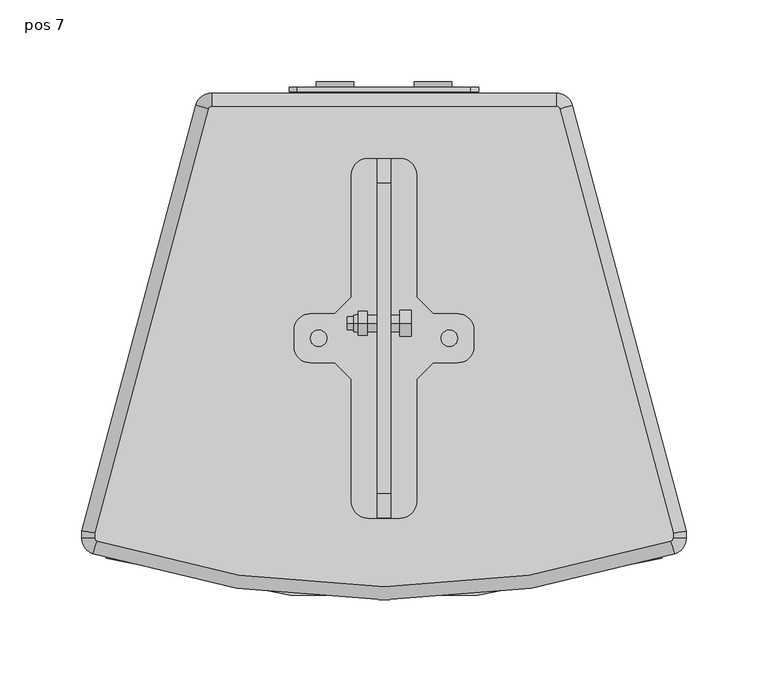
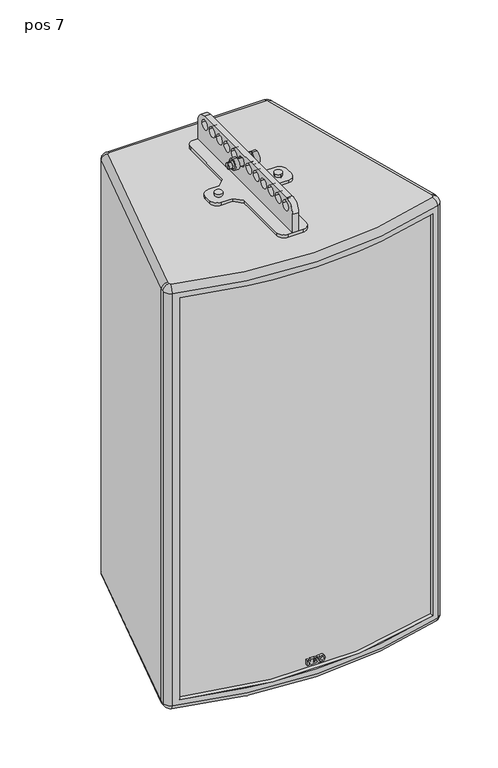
"""IFC4 building model written with IfcOpenShell, lengths in millimetres: proxy geometry, ePS12-WM380-BUMP-WVM : pos 7."""

from ifc_helpers import new_model, si_unit, point, frame, frame_2d, origin, place, context, project, spatial, polyline, circle_curve, ellipse_curve, trimmed, segment, composite_curve, outline, extrude, source, transform, mapped, element, save
from ifc_brep_helpers import plane_surface, cylinder_surface, revolved_surface, advanced_brep


def pos_7_54a07403(model_context):
    return source(origin(), model_context, "Body", "SolidModel", [
        extrude(outline(composite_curve([segment(trimmed(circle_curve(frame_2d((-40.0511607, -388.9923276)), 5.0), [point((-45.0511607, -388.9923276))], [point((-35.0511607, -388.9923276))], False, "CARTESIAN"), True, "CONTINUOUS"), segment(trimmed(circle_curve(frame_2d((-40.0511607, -388.9923276)), 5.0), [point((-35.0511607, -388.9923276))], [point((-45.0511607, -388.9923276))], False, "CARTESIAN"), True, "CONTINUOUS")], self_intersect=False)), frame((0.0, 0.0, -97.9639301), z_axis=(0.0, 0.0, 1.0), x_axis=(1.0, 0.0, 0.0)), (0.0, 0.0, 1.0), 4.0),
        extrude(outline(composite_curve([segment(trimmed(circle_curve(frame_2d((40.0511607, -388.9923276)), 5.0), [point((45.0511607, -388.9923276))], [point((35.0511607, -388.9923276))], False, "CARTESIAN"), True, "CONTINUOUS"), segment(trimmed(circle_curve(frame_2d((40.0511607, -388.9923276)), 5.0), [point((35.0511607, -388.9923276))], [point((45.0511607, -388.9923276))], False, "CARTESIAN"), True, "CONTINUOUS")], self_intersect=False)), frame((0.0, 0.0, -97.9639301), z_axis=(0.0, 0.0, 1.0), x_axis=(1.0, 0.0, 0.0)), (0.0, 0.0, 1.0), 4.0),
        extrude(outline(composite_curve([segment(trimmed(circle_curve(frame_2d((-293.9923276, -71.9639301)), 15.0), [point((-293.9923276, -56.9639301))], [point((-278.9923276, -71.9639301))], False, "CARTESIAN"), True, "CONTINUOUS"), segment(polyline([(-278.9923276, -71.9639301), (-278.9923276, -97.9639301), (-498.9923276, -97.9639301), (-498.9923276, -71.9639301)]), True, "CONTINUOUS"), segment(trimmed(circle_curve(frame_2d((-483.9923276, -71.9639301)), 15.0), [point((-498.9923276, -71.9639301))], [point((-483.9923276, -56.9639301))], False, "CARTESIAN"), True, "CONTINUOUS"), segment(polyline([(-483.9923276, -56.9639301), (-293.9923276, -56.9639301)]), True, "CONTINUOUS")], self_intersect=False), holes=[composite_curve([segment(trimmed(circle_curve(frame_2d((-397.0182505, -68.9639301)), 6.5), [point((-403.5182505, -68.9639301))], [point((-390.5182505, -68.9639301))], True, "CARTESIAN"), True, "CONTINUOUS"), segment(trimmed(circle_curve(frame_2d((-397.0182505, -68.9639301)), 6.5), [point((-390.5182505, -68.9639301))], [point((-403.5182505, -68.9639301))], True, "CARTESIAN"), True, "CONTINUOUS")], self_intersect=False), composite_curve([segment(trimmed(circle_curve(frame_2d((-414.0963755, -68.9639301)), 6.5), [point((-420.5963755, -68.9639301))], [point((-407.5963755, -68.9639301))], True, "CARTESIAN"), True, "CONTINUOUS"), segment(trimmed(circle_curve(frame_2d((-414.0963755, -68.9639301)), 6.5), [point((-407.5963755, -68.9639301))], [point((-420.5963755, -68.9639301))], True, "CARTESIAN"), True, "CONTINUOUS")], self_intersect=False), composite_curve([segment(trimmed(circle_curve(frame_2d((-431.1745005, -68.9639301)), 6.5), [point((-437.6745005, -68.9639301))], [point((-424.6745005, -68.9639301))], True, "CARTESIAN"), True, "CONTINUOUS"), segment(trimmed(circle_curve(frame_2d((-431.1745005, -68.9639301)), 6.5), [point((-424.6745005, -68.9639301))], [point((-437.6745005, -68.9639301))], True, "CARTESIAN"), True, "CONTINUOUS")], self_intersect=False), composite_curve([segment(trimmed(circle_curve(frame_2d((-448.2526255, -68.9639301)), 6.5), [point((-454.7526255, -68.9639301))], [point((-441.7526255, -68.9639301))], True, "CARTESIAN"), True, "CONTINUOUS"), segment(trimmed(circle_curve(frame_2d((-448.2526255, -68.9639301)), 6.5), [point((-441.7526255, -68.9639301))], [point((-454.7526255, -68.9639301))], True, "CARTESIAN"), True, "CONTINUOUS")], self_intersect=False), composite_curve([segment(trimmed(circle_curve(frame_2d((-465.3307505, -68.9639301)), 6.5), [point((-471.8307505, -68.9639301))], [point((-458.8307505, -68.9639301))], True, "CARTESIAN"), True, "CONTINUOUS"), segment(trimmed(circle_curve(frame_2d((-465.3307505, -68.9639301)), 6.5), [point((-458.8307505, -68.9639301))], [point((-471.8307505, -68.9639301))], True, "CARTESIAN"), True, "CONTINUOUS")], self_intersect=False), composite_curve([segment(trimmed(circle_curve(frame_2d((-482.4088755, -68.9639301)), 6.5), [point((-488.9088755, -68.9639301))], [point((-475.9088755, -68.9639301))], True, "CARTESIAN"), True, "CONTINUOUS"), segment(trimmed(circle_curve(frame_2d((-482.4088755, -68.9639301)), 6.5), [point((-475.9088755, -68.9639301))], [point((-488.9088755, -68.9639301))], True, "CARTESIAN"), True, "CONTINUOUS")], self_intersect=False), composite_curve([segment(trimmed(circle_curve(frame_2d((-379.9094917, -68.9639301)), 6.5), [point((-373.4094917, -68.9639301))], [point((-386.4094917, -68.9639301))], True, "CARTESIAN"), True, "CONTINUOUS"), segment(trimmed(circle_curve(frame_2d((-379.9094917, -68.9639301)), 6.5), [point((-386.4094917, -68.9639301))], [point((-373.4094917, -68.9639301))], True, "CARTESIAN"), True, "CONTINUOUS")], self_intersect=False), composite_curve([segment(trimmed(circle_curve(frame_2d((-362.8313667, -68.9639301)), 6.5), [point((-356.3313667, -68.9639301))], [point((-369.3313667, -68.9639301))], True, "CARTESIAN"), True, "CONTINUOUS"), segment(trimmed(circle_curve(frame_2d((-362.8313667, -68.9639301)), 6.5), [point((-369.3313667, -68.9639301))], [point((-356.3313667, -68.9639301))], True, "CARTESIAN"), True, "CONTINUOUS")], self_intersect=False), composite_curve([segment(trimmed(circle_curve(frame_2d((-345.7532417, -68.9639301)), 6.5), [point((-339.2532417, -68.9639301))], [point((-352.2532417, -68.9639301))], True, "CARTESIAN"), True, "CONTINUOUS"), segment(trimmed(circle_curve(frame_2d((-345.7532417, -68.9639301)), 6.5), [point((-352.2532417, -68.9639301))], [point((-339.2532417, -68.9639301))], True, "CARTESIAN"), True, "CONTINUOUS")], self_intersect=False), composite_curve([segment(trimmed(circle_curve(frame_2d((-328.6751167, -68.9639301)), 6.5), [point((-322.1751167, -68.9639301))], [point((-335.1751167, -68.9639301))], True, "CARTESIAN"), True, "CONTINUOUS"), segment(trimmed(circle_curve(frame_2d((-328.6751167, -68.9639301)), 6.5), [point((-335.1751167, -68.9639301))], [point((-322.1751167, -68.9639301))], True, "CARTESIAN"), True, "CONTINUOUS")], self_intersect=False), composite_curve([segment(trimmed(circle_curve(frame_2d((-311.5969917, -68.9639301)), 6.5), [point((-305.0969917, -68.9639301))], [point((-318.0969917, -68.9639301))], True, "CARTESIAN"), True, "CONTINUOUS"), segment(trimmed(circle_curve(frame_2d((-311.5969917, -68.9639301)), 6.5), [point((-318.0969917, -68.9639301))], [point((-305.0969917, -68.9639301))], True, "CARTESIAN"), True, "CONTINUOUS")], self_intersect=False), composite_curve([segment(trimmed(circle_curve(frame_2d((-294.5188667, -68.9639301)), 6.5), [point((-288.0188667, -68.9639301))], [point((-301.0188667, -68.9639301))], True, "CARTESIAN"), True, "CONTINUOUS"), segment(trimmed(circle_curve(frame_2d((-294.5188667, -68.9639301)), 6.5), [point((-301.0188667, -68.9639301))], [point((-288.0188667, -68.9639301))], True, "CARTESIAN"), True, "CONTINUOUS")], self_intersect=False)]), frame((-4.0, 0.0, 0.0), z_axis=(1.0, 0.0, 0.0), x_axis=(0.0, 1.0, 0.0)), (0.0, 0.0, 1.0), 8.0),
        extrude(outline(composite_curve([segment(polyline([(-20.0, -363.9923276), (-20.0, -288.9923276)]), True, "CONTINUOUS"), segment(trimmed(circle_curve(frame_2d((-10.0, -288.9923276)), 10.0), [point((-20.0, -288.9923276))], [point((-10.0, -278.9923276))], False, "CARTESIAN"), True, "CONTINUOUS"), segment(polyline([(-10.0, -278.9923276), (10.0, -278.9923276)]), True, "CONTINUOUS"), segment(trimmed(circle_curve(frame_2d((10.0, -288.9923276)), 10.0), [point((10.0, -278.9923276))], [point((20.0, -288.9923276))], False, "CARTESIAN"), True, "CONTINUOUS"), segment(polyline([(20.0, -288.9923276), (20.0, -363.9923276), (30.0, -373.9923276), (45.0, -373.9923276)]), True, "CONTINUOUS"), segment(trimmed(circle_curve(frame_2d((45.0, -383.9923276)), 10.0), [point((45.0, -373.9923276))], [point((55.0, -383.9923276))], False, "CARTESIAN"), True, "CONTINUOUS"), segment(polyline([(55.0, -383.9923276), (55.0, -393.9923276)]), True, "CONTINUOUS"), segment(trimmed(circle_curve(frame_2d((45.0, -393.9923276)), 10.0), [point((55.0, -393.9923276))], [point((45.0, -403.9923276))], False, "CARTESIAN"), True, "CONTINUOUS"), segment(polyline([(45.0, -403.9923276), (30.0, -403.9923276), (20.0, -413.9923276), (20.0, -488.9923276)]), True, "CONTINUOUS"), segment(trimmed(circle_curve(frame_2d((10.0, -488.9923276)), 10.0), [point((20.0, -488.9923276))], [point((10.0, -498.9923276))], False, "CARTESIAN"), True, "CONTINUOUS"), segment(polyline([(10.0, -498.9923276), (-10.0, -498.9923276)]), True, "CONTINUOUS"), segment(trimmed(circle_curve(frame_2d((-10.0, -488.9923276)), 10.0), [point((-10.0, -498.9923276))], [point((-20.0, -488.9923276))], False, "CARTESIAN"), True, "CONTINUOUS"), segment(polyline([(-20.0, -488.9923276), (-20.0, -413.9923276), (-30.0, -403.9923276), (-45.0, -403.9923276)]), True, "CONTINUOUS"), segment(trimmed(circle_curve(frame_2d((-45.0, -393.9923276)), 10.0), [point((-45.0, -403.9923276))], [point((-55.0, -393.9923276))], False, "CARTESIAN"), True, "CONTINUOUS"), segment(polyline([(-55.0, -393.9923276), (-55.0, -383.9923276)]), True, "CONTINUOUS"), segment(trimmed(circle_curve(frame_2d((-45.0, -383.9923276)), 10.0), [point((-55.0, -383.9923276))], [point((-45.0, -373.9923276))], False, "CARTESIAN"), True, "CONTINUOUS"), segment(polyline([(-45.0, -373.9923276), (-30.0, -373.9923276), (-20.0, -363.9923276)]), True, "CONTINUOUS")], self_intersect=False), holes=[composite_curve([segment(trimmed(circle_curve(frame_2d((-40.0102651, -388.9923276)), 3.0), [point((-43.0102651, -388.9923276))], [point((-37.0102651, -388.9923276))], True, "CARTESIAN"), True, "CONTINUOUS"), segment(trimmed(circle_curve(frame_2d((-40.0102651, -388.9923276)), 3.0), [point((-37.0102651, -388.9923276))], [point((-43.0102651, -388.9923276))], True, "CARTESIAN"), True, "CONTINUOUS")], self_intersect=False), composite_curve([segment(trimmed(circle_curve(frame_2d((40.0102651, -388.9923276)), 3.0), [point((43.0102651, -388.9923276))], [point((37.0102651, -388.9923276))], True, "CARTESIAN"), True, "CONTINUOUS"), segment(trimmed(circle_curve(frame_2d((40.0102651, -388.9923276)), 3.0), [point((37.0102651, -388.9923276))], [point((43.0102651, -388.9923276))], True, "CARTESIAN"), True, "CONTINUOUS")], self_intersect=False)]), frame((0.0, 0.0, -101.9639301), z_axis=(0.0, 0.0, 1.0), x_axis=(1.0, 0.0, 0.0)), (0.0, 0.0, 1.0), 4.0),
        extrude(outline(composite_curve([segment(trimmed(circle_curve(frame_2d((-676.1938211, 8.0750207)), 3.9406238), [point((-676.1938211, 4.1343969))], [point((-676.1938211, 12.0156446))], False, "CARTESIAN"), True, "CONTINUOUS"), segment(trimmed(circle_curve(frame_2d((-676.1938211, 8.0750207)), 3.9406238), [point((-676.1938211, 12.0156446))], [point((-676.1938211, 4.1343969))], False, "CARTESIAN"), True, "CONTINUOUS")], self_intersect=False), holes=[composite_curve([segment(trimmed(circle_curve(frame_2d((-676.1938211, 8.0750207)), 2.0681078), [point((-676.1938211, 6.0069129))], [point((-676.1938211, 10.1431285))], True, "CARTESIAN"), True, "CONTINUOUS"), segment(trimmed(circle_curve(frame_2d((-676.1938211, 8.0750207)), 2.0681078), [point((-676.1938211, 10.1431285))], [point((-676.1938211, 6.0069129))], True, "CARTESIAN"), True, "CONTINUOUS")], self_intersect=False)]), frame((0.0, -546.9228467, 0.0), z_axis=(0.0, 1.0, 0.0), x_axis=(0.0, 0.0, 1.0)), (0.0, 0.0, 1.0), 3.5087945),
        extrude(outline(polyline([(-672.5229831, -11.9363528), (-679.8027502, -11.9363528), (-679.8027502, -10.0439855), (-675.63742, -10.0439855), (-679.8027502, -7.2688886), (-679.8027502, -0.4179789), (-677.9277791, 0.9005934), (-676.3282457, -0.1627837), (-678.2000858, -1.5323263), (-678.2000858, -4.5659556), (-676.9457984, -4.5659556), (-676.9457984, -2.2828427), (-675.3430682, -2.2828427), (-675.3430682, -4.5659556), (-674.1265649, -4.5659556), (-674.1265649, -2.1588809), (-673.3265649, -2.1588809), (-672.5238347, -2.6925396), (-672.5238347, -6.9609157), (-676.9738907, -6.9706073), (-672.5229831, -9.9098734), (-672.5229831, -11.9363528)])), frame((0.0, -546.9228467, 0.0), z_axis=(0.0, 1.0, 0.0), x_axis=(0.0, 0.0, 1.0)), (0.0, 0.0, 1.0), 3.5087945),
        extrude(outline(polyline([(-672.5229831, -2.0512245), (-680.7639301, 3.4273947), (-680.7639301, 5.6205974), (-672.5229831, 0.1419782), (-672.5229831, -2.0512245)])), frame((0.0, -546.9228467, 0.0), z_axis=(0.0, 1.0, 0.0), x_axis=(0.0, 0.0, 1.0)), (0.0, 0.0, 1.0), 3.5087945),
        extrude(outline(polyline([(-672.5229831, 4.6894095), (-672.5229831, 2.362619), (-673.7909401, 1.6148247), (-675.421834, 2.6990504), (-672.5229831, 4.6894095)])), frame((0.0, -546.9228467, 0.0), z_axis=(0.0, 1.0, 0.0), x_axis=(0.0, 0.0, 1.0)), (0.0, 0.0, 1.0), 3.5087945),
        extrude(outline(composite_curve([segment(trimmed(circle_curve(frame_2d((-664.4639301, -30.0)), 11.4515227), [point((-664.4639301, -18.5484773))], [point((-664.4639301, -41.4515227))], False, "CARTESIAN"), True, "CONTINUOUS"), segment(trimmed(circle_curve(frame_2d((-664.4639301, -30.0)), 11.4515227), [point((-664.4639301, -41.4515227))], [point((-664.4639301, -18.5484773))], False, "CARTESIAN"), True, "CONTINUOUS")], self_intersect=False), holes=[composite_curve([segment(trimmed(circle_curve(frame_2d((-664.4639301, -30.0)), 5.0), [point((-664.4639301, -25.0))], [point((-664.4639301, -35.0))], True, "CARTESIAN"), True, "CONTINUOUS"), segment(trimmed(circle_curve(frame_2d((-664.4639301, -30.0)), 5.0), [point((-664.4639301, -35.0))], [point((-664.4639301, -25.0))], True, "CARTESIAN"), True, "CONTINUOUS")], self_intersect=False)]), frame((0.0, -235.3975922, 0.0), z_axis=(0.0, 1.0, 0.0), x_axis=(0.0, 0.0, 1.0)), (0.0, 0.0, 1.0), 3.4052646),
        extrude(outline(composite_curve([segment(trimmed(circle_curve(frame_2d((-664.4639301, 30.0)), 11.4515227), [point((-664.4639301, 41.4515227))], [point((-664.4639301, 18.5484773))], False, "CARTESIAN"), True, "CONTINUOUS"), segment(trimmed(circle_curve(frame_2d((-664.4639301, 30.0)), 11.4515227), [point((-664.4639301, 18.5484773))], [point((-664.4639301, 41.4515227))], False, "CARTESIAN"), True, "CONTINUOUS")], self_intersect=False), holes=[composite_curve([segment(trimmed(circle_curve(frame_2d((-664.4639301, 30.0)), 5.0), [point((-664.4639301, 35.0))], [point((-664.4639301, 25.0))], True, "CARTESIAN"), True, "CONTINUOUS"), segment(trimmed(circle_curve(frame_2d((-664.4639301, 30.0)), 5.0), [point((-664.4639301, 25.0))], [point((-664.4639301, 35.0))], True, "CARTESIAN"), True, "CONTINUOUS")], self_intersect=False)]), frame((0.0, -235.3975922, 0.0), z_axis=(0.0, 1.0, 0.0), x_axis=(0.0, 0.0, 1.0)), (0.0, 0.0, 1.0), 3.4052646),
        extrude(outline(composite_curve([segment(polyline([(-645.4639301, 53.0), (-645.4639301, -53.0)]), True, "CONTINUOUS"), segment(trimmed(circle_curve(frame_2d((-650.4639301, -53.0)), 5.0), [point((-645.4639301, -53.0))], [point((-650.4639301, -58.0))], False, "CARTESIAN"), True, "CONTINUOUS"), segment(polyline([(-650.4639301, -58.0), (-678.4639301, -58.0)]), True, "CONTINUOUS"), segment(trimmed(circle_curve(frame_2d((-678.4639301, -53.0)), 5.0), [point((-678.4639301, -58.0))], [point((-683.4639301, -53.0))], False, "CARTESIAN"), True, "CONTINUOUS"), segment(polyline([(-683.4639301, -53.0), (-683.4639301, 53.0)]), True, "CONTINUOUS"), segment(trimmed(circle_curve(frame_2d((-678.4639301, 53.0)), 5.0), [point((-683.4639301, 53.0))], [point((-678.4639301, 58.0))], False, "CARTESIAN"), True, "CONTINUOUS"), segment(polyline([(-678.4639301, 58.0), (-650.4639301, 58.0)]), True, "CONTINUOUS"), segment(trimmed(circle_curve(frame_2d((-650.4639301, 53.0)), 5.0), [point((-650.4639301, 58.0))], [point((-645.4639301, 53.0))], False, "CARTESIAN"), True, "CONTINUOUS")], self_intersect=False)), frame((0.0, -237.8975922, 0.0), z_axis=(0.0, 1.0, 0.0), x_axis=(0.0, 0.0, 1.0)), (0.0, 0.0, 1.0), 2.5),
        advanced_brep(
        [(0.0, -393.9923276, -105.9639301), (0.0, -383.9923276, -105.9639301), (0.0, -383.9923276, -101.9639301), (0.0, -393.9923276, -101.9639301), (40.0, -393.9923276, -105.9639301), (40.0, -383.9923276, -105.9639301), (40.0, -383.9923276, -101.9639301), (40.0, -393.9923276, -101.9639301), (-170.0, -523.3918379, -116.9639301), (-170.0, -518.2080014, -116.9639301), (170.0, -518.2080014, -116.9639301), (170.0, -523.3918379, -116.9639301), (170.0, -523.3918379, -686.9639301), (170.0, -518.2080014, -686.9639301), (-170.0, -518.2080014, -686.9639301), (-170.0, -523.3918379, -686.9639301), (0.0, -383.9923276, -697.9639301), (0.0, -393.9923276, -697.9639301), (-40.0, -383.9923276, -697.9639301), (-40.0, -393.9923276, -697.9639301), (40.0, -383.9923276, -697.9639301), (40.0, -393.9923276, -697.9639301), (-185.0, -507.0400699, -109.9639301), (-115.1756048, -246.4518794, -109.9639301), (-115.1756048, -246.4518794, -693.9639301), (-185.0, -507.0400699, -693.9639301), (-185.0, -511.3182539, -109.9639301), (-185.0, -511.3182539, -693.9639301), (178.0902391, -520.8287966, -109.9639301), (-178.0902391, -520.8287966, -109.9639301), (-178.0902391, -520.8287966, -693.9639337), (178.0902391, -520.8287966, -693.9639301), (185.0, -507.0400699, -109.9639301), (185.0, -511.3182539, -109.9639301), (185.0, -511.3182539, -693.9639301), (185.0, -507.0400699, -693.9639301), (115.1756048, -246.4518794, -109.9639301), (115.1756048, -246.4518794, -693.9639301), (105.5163465, -239.0400699, -109.9639301), (105.5163465, -239.0400699, -693.9639301), (-40.6566026, -243.9923276, -331.9639301), (-29.3432823, -243.9923276, -331.9639301), (-29.3432823, -239.0400699, -331.9639301), (-40.6566026, -239.0400699, -331.9639301), (177.0, -511.3182539, -101.9639301), (175.6180478, -513.2203624, -101.9639301), (-175.6180478, -513.2203624, -101.9639301), (-177.0, -511.3182539, -101.9639301), (-177.0, -508.0932898, -101.9639301), (-107.4481982, -248.5224318, -101.9639301), (-105.5163465, -247.0400699, -101.9639301), (-105.5163465, -239.0400699, -109.9639301), (105.5163465, -247.0400699, -101.9639301), (107.4481982, -248.5224318, -101.9639301), (177.0, -508.0932898, -101.9639301), (-40.0, -393.9923276, -101.9639301), (-40.0, -383.9923276, -101.9639301), (105.5163465, -247.0400699, -701.9639301), (107.4481982, -248.5224318, -701.9639301), (177.0, -508.0932898, -701.9639301), (177.0, -511.3182539, -701.9639301), (175.6180478, -513.2203624, -701.9639301), (-175.6180478, -513.2203624, -701.9639301), (-177.0, -511.3182539, -701.9639301), (-177.0, -508.0932898, -701.9639301), (-107.4481982, -248.5224318, -701.9639301), (-105.5163465, -247.0400699, -701.9639301), (0.0, -383.9923276, -701.9639301), (0.0, -393.9923276, -701.9639301), (-40.0, -383.9923276, -701.9639301), (-40.0, -393.9923276, -701.9639301), (40.0, -383.9923276, -701.9639301), (40.0, -393.9923276, -701.9639301), (-40.0, -383.9923276, -105.9639301), (-40.0, -393.9923276, -105.9639301), (40.6567177, -243.9923276, -401.9639301), (29.3433974, -243.9923276, -401.9639301), (-29.3432823, -243.9923276, -401.9639301), (-40.6566026, -243.9923276, -401.9639301), (29.3433974, -239.0400699, -401.9639301), (40.6567177, -239.0400699, -401.9639301), (-105.5163465, -239.0400699, -693.9639301), (-29.3432823, -239.0400699, -401.9639301), (-40.6566026, -239.0400699, -401.9639301)],
        [
            (0, 1, circle_curve(frame((0.0, -388.9923276, -105.9639301), z_axis=(0.0, 0.0, -1.0), x_axis=(0.0, -1.0, 0.0)), 5.0)),
            (1, 2),
            (2, 3, circle_curve(frame((0.0, -388.9923276, -101.9639301), z_axis=(0.0, 0.0, 1.0), x_axis=(0.0, -1.0, 0.0)), 5.0)),
            (3, 0),
            (4, 5, circle_curve(frame((40.0, -388.9923276, -105.9639301), z_axis=(0.0, 0.0, -1.0), x_axis=(0.0, -1.0, 0.0)), 5.0)),
            (5, 6),
            (6, 7, circle_curve(frame((40.0, -388.9923276, -101.9639301), z_axis=(0.0, 0.0, 1.0), x_axis=(0.0, -1.0, 0.0)), 5.0)),
            (7, 4),
            (8, 9),
            (9, 10, circle_curve(frame((0.0, 33.764083, -116.9639301), z_axis=(0.0, 0.0, 1.0), x_axis=(1.0, 0.0, 0.0)), 577.5579469)),
            (10, 11),
            (11, 8, circle_curve(frame((0.0, 27.2630438, -116.9639301), z_axis=(0.0, 0.0, -1.0), x_axis=(1.0, 0.0, 0.0)), 576.2992267)),
            (12, 13),
            (13, 14, circle_curve(frame((0.0, 33.764083, -686.9639301), z_axis=(0.0, 0.0, -1.0), x_axis=(1.0, 0.0, 0.0)), 577.5579469)),
            (14, 15),
            (15, 12, circle_curve(frame((0.0, 27.2630438, -686.9639301), z_axis=(0.0, 0.0, 1.0), x_axis=(1.0, 0.0, 0.0)), 576.2992267)),
            (16, 17, circle_curve(frame((0.0, -388.9923276, -697.9639301), z_axis=(0.0, 0.0, -1.0), x_axis=(0.0, -1.0, 0.0)), 5.0)),
            (17, 16, circle_curve(frame((0.0, -388.9923276, -697.9639301), z_axis=(0.0, 0.0, -1.0), x_axis=(0.0, -1.0, 0.0)), 5.0)),
            (18, 19, circle_curve(frame((-40.0, -388.9923276, -697.9639301), z_axis=(0.0, 0.0, -1.0), x_axis=(0.0, -1.0, 0.0)), 5.0)),
            (19, 18, circle_curve(frame((-40.0, -388.9923276, -697.9639301), z_axis=(0.0, 0.0, -1.0), x_axis=(0.0, -1.0, 0.0)), 5.0)),
            (20, 21, circle_curve(frame((40.0, -388.9923276, -697.9639301), z_axis=(0.0, 0.0, -1.0), x_axis=(0.0, -1.0, 0.0)), 5.0)),
            (21, 20, circle_curve(frame((40.0, -388.9923276, -697.9639301), z_axis=(0.0, 0.0, -1.0), x_axis=(0.0, -1.0, 0.0)), 5.0)),
            (22, 23),
            (23, 24),
            (24, 25),
            (25, 22),
            (26, 22),
            (25, 27),
            (27, 26),
            (28, 29, circle_curve(frame((0.0, 27.2630438, -109.9639301), z_axis=(0.0, 0.0, -1.0), x_axis=(1.0, 0.0, 0.0)), 576.2992267)),
            (29, 30),
            (30, 31, circle_curve(frame((0.0, 27.2630438, -693.9639301), z_axis=(0.0, 0.0, 1.0), x_axis=(1.0, 0.0, 0.0)), 576.2992267)),
            (31, 28),
            (11, 12),
            (15, 8),
            (32, 33),
            (33, 34),
            (34, 35),
            (35, 32),
            (36, 32),
            (35, 37),
            (37, 36),
            (38, 36, circle_curve(frame((105.5163465, -249.0400699, -109.9639301), z_axis=(0.0, 0.0, -1.0), x_axis=(1.0, 0.0, 0.0)), 10.0)),
            (37, 39, circle_curve(frame((105.5163465, -249.0400699, -693.9639301), z_axis=(0.0, 0.0, 1.0), x_axis=(1.0, 0.0, 0.0)), 10.0)),
            (39, 38),
            (40, 41, circle_curve(frame((-34.9999424, -243.9923276, -331.9639301), z_axis=(0.0, -1.0, 0.0), x_axis=(-1.0, 0.0, 0.0)), 5.6566602)),
            (41, 42),
            (42, 43, circle_curve(frame((-34.9999424, -239.0400699, -331.9639301), z_axis=(0.0, 1.0, 0.0), x_axis=(-1.0, 0.0, 0.0)), 5.6566602)),
            (43, 40),
            (41, 40, circle_curve(frame((-34.9999424, -243.9923276, -331.9639301), z_axis=(0.0, -1.0, 0.0), x_axis=(-1.0, 0.0, 0.0)), 5.6566602)),
            (43, 42, circle_curve(frame((-34.9999424, -239.0400699, -331.9639301), z_axis=(0.0, 1.0, 0.0), x_axis=(-1.0, 0.0, 0.0)), 5.6566602)),
            (10, 13),
            (33, 44, circle_curve(frame((177.0, -511.3182539, -109.9639301), z_axis=(0.0, -1.0, 0.0), x_axis=(1.0, 0.0, 0.0)), 8.0)),
            (44, 45, circle_curve(frame((175.0, -511.3182539, -101.9639301), z_axis=(0.0, 0.0, -1.0), x_axis=(1.0, 0.0, 0.0)), 2.0)),
            (45, 28, circle_curve(frame((175.6180478, -513.2203624, -109.9639301), z_axis=(0.95105426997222, 0.3090239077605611, 0.0), x_axis=(0.3090239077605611, -0.95105426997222, 0.0)), 8.0)),
            (28, 33, circle_curve(frame((175.0, -511.3182539, -109.9639301), z_axis=(0.0, 0.0, 1.0), x_axis=(1.0, 0.0, 0.0)), 10.0)),
            (45, 46, circle_curve(frame((0.0, 27.2630438, -101.9639301), z_axis=(0.0, 0.0, -1.0), x_axis=(0.309023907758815, -0.9510542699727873, 0.0)), 568.2992267)),
            (46, 29, circle_curve(frame((-175.6180478, -513.2203624, -109.9639301), z_axis=(0.9510542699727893, -0.3090239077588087, 0.0), x_axis=(-0.3090239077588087, -0.9510542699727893, 0.0)), 8.0)),
            (46, 47, circle_curve(frame((-175.0, -511.3182539, -101.9639301), z_axis=(0.0, 0.0, -1.0), x_axis=(-0.3090239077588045, -0.9510542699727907, 0.0)), 2.0)),
            (47, 26, circle_curve(frame((-177.0, -511.3182539, -109.9639301), z_axis=(0.0, -1.0, 0.0), x_axis=(-1.0, 0.0, 0.0)), 8.0)),
            (26, 29, circle_curve(frame((-175.0, -511.3182539, -109.9639301), z_axis=(0.0, 0.0, 1.0), x_axis=(-0.3090239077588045, -0.9510542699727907, 0.0)), 10.0)),
            (47, 48),
            (48, 22, ellipse_curve(frame((-177.0, -508.0932898, -109.9639301), z_axis=(-0.1305261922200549, -0.99144486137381, 0.0), x_axis=(-0.9914448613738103, 0.13052619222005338, 0.0)), 8.0690317, 8.0)),
            (48, 49),
            (49, 23, circle_curve(frame((-107.4481982, -248.5224318, -109.9639301), z_axis=(-0.25881904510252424, -0.9659258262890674, 0.0), x_axis=(-0.9659258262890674, 0.25881904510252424, 0.0)), 8.0)),
            (49, 50, circle_curve(frame((-105.5163465, -249.0400699, -101.9639301), z_axis=(0.0, 0.0, -1.0), x_axis=(-0.9659258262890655, 0.2588190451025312, 0.0)), 2.0)),
            (50, 51, circle_curve(frame((-105.5163465, -247.0400699, -109.9639301), z_axis=(-1.0, 0.0, 0.0), x_axis=(0.0, 1.0, 0.0)), 8.0)),
            (51, 23, circle_curve(frame((-105.5163465, -249.0400699, -109.9639301), z_axis=(0.0, 0.0, 1.0), x_axis=(-0.9659258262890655, 0.2588190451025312, 0.0)), 10.0)),
            (52, 38, circle_curve(frame((105.5163465, -247.0400699, -109.9639301), z_axis=(-1.0, 0.0, 0.0), x_axis=(0.0, 1.0, 0.0)), 8.0)),
            (38, 51),
            (50, 52),
            (53, 52, circle_curve(frame((105.5163465, -249.0400699, -101.9639301), z_axis=(0.0, 0.0, 1.0), x_axis=(0.0, 1.0, 0.0)), 2.0)),
            (44, 54),
            (54, 53),
            (2, 3, circle_curve(frame((0.0, -388.9923276, -101.9639301), z_axis=(0.0, 0.0, -1.0), x_axis=(0.0, -1.0, 0.0)), 5.0)),
            (55, 56, circle_curve(frame((-40.0, -388.9923276, -101.9639301), z_axis=(0.0, 0.0, -1.0), x_axis=(0.0, -1.0, 0.0)), 5.0)),
            (56, 55, circle_curve(frame((-40.0, -388.9923276, -101.9639301), z_axis=(0.0, 0.0, -1.0), x_axis=(0.0, -1.0, 0.0)), 5.0)),
            (6, 7, circle_curve(frame((40.0, -388.9923276, -101.9639301), z_axis=(0.0, 0.0, -1.0), x_axis=(0.0, -1.0, 0.0)), 5.0)),
            (57, 58, circle_curve(frame((105.5163465, -249.0400699, -701.9639301), z_axis=(0.0, 0.0, -1.0), x_axis=(0.0, 1.0, 0.0)), 2.0)),
            (58, 59),
            (59, 60),
            (60, 61, circle_curve(frame((175.0, -511.3182539, -701.9639301), z_axis=(0.0, 0.0, -1.0), x_axis=(1.0, 0.0, 0.0)), 2.0)),
            (61, 62, circle_curve(frame((0.0, 27.2630438, -701.9639301), z_axis=(0.0, 0.0, -1.0), x_axis=(0.309023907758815, -0.9510542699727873, 0.0)), 568.2992267)),
            (62, 63, circle_curve(frame((-175.0, -511.3182539, -701.9639301), z_axis=(0.0, 0.0, -1.0), x_axis=(-0.3090239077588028, -0.9510542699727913, 0.0)), 2.0)),
            (63, 64),
            (64, 65),
            (65, 66, circle_curve(frame((-105.5163465, -249.0400699, -701.9639301), z_axis=(0.0, 0.0, -1.0), x_axis=(-0.9659258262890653, 0.25881904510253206, 0.0)), 2.0)),
            (66, 57),
            (67, 68, circle_curve(frame((0.0, -388.9923276, -701.9639301), z_axis=(0.0, 0.0, 1.0), x_axis=(0.0, -1.0, 0.0)), 5.0)),
            (68, 67, circle_curve(frame((0.0, -388.9923276, -701.9639301), z_axis=(0.0, 0.0, 1.0), x_axis=(0.0, -1.0, 0.0)), 5.0)),
            (69, 70, circle_curve(frame((-40.0, -388.9923276, -701.9639301), z_axis=(0.0, 0.0, 1.0), x_axis=(0.0, -1.0, 0.0)), 5.0)),
            (70, 69, circle_curve(frame((-40.0, -388.9923276, -701.9639301), z_axis=(0.0, 0.0, 1.0), x_axis=(0.0, -1.0, 0.0)), 5.0)),
            (71, 72, circle_curve(frame((40.0, -388.9923276, -701.9639301), z_axis=(0.0, 0.0, 1.0), x_axis=(0.0, -1.0, 0.0)), 5.0)),
            (72, 71, circle_curve(frame((40.0, -388.9923276, -701.9639301), z_axis=(0.0, 0.0, 1.0), x_axis=(0.0, -1.0, 0.0)), 5.0)),
            (0, 1, circle_curve(frame((0.0, -388.9923276, -105.9639301), z_axis=(0.0, 0.0, 1.0), x_axis=(0.0, -1.0, 0.0)), 5.0)),
            (73, 74, circle_curve(frame((-40.0, -388.9923276, -105.9639301), z_axis=(0.0, 0.0, 1.0), x_axis=(0.0, -1.0, 0.0)), 5.0)),
            (74, 73, circle_curve(frame((-40.0, -388.9923276, -105.9639301), z_axis=(0.0, 0.0, 1.0), x_axis=(0.0, -1.0, 0.0)), 5.0)),
            (4, 5, circle_curve(frame((40.0, -388.9923276, -105.9639301), z_axis=(0.0, 0.0, 1.0), x_axis=(0.0, -1.0, 0.0)), 5.0)),
            (17, 68),
            (67, 16),
            (19, 70),
            (69, 18),
            (21, 72),
            (71, 20),
            (75, 76, circle_curve(frame((35.0000576, -243.9923276, -401.9639301), z_axis=(0.0, 1.0, 0.0), x_axis=(-1.0, 0.0, 0.0)), 5.6566602)),
            (76, 75, circle_curve(frame((35.0000576, -243.9923276, -401.9639301), z_axis=(0.0, 1.0, 0.0), x_axis=(-1.0, 0.0, 0.0)), 5.6566602)),
            (77, 78, circle_curve(frame((-34.9999424, -243.9923276, -401.9639301), z_axis=(0.0, 1.0, 0.0), x_axis=(-1.0, 0.0, 0.0)), 5.6566602)),
            (78, 77, circle_curve(frame((-34.9999424, -243.9923276, -401.9639301), z_axis=(0.0, 1.0, 0.0), x_axis=(-1.0, 0.0, 0.0)), 5.6566602)),
            (76, 79),
            (79, 80, circle_curve(frame((35.0000576, -239.0400699, -401.9639301), z_axis=(0.0, 1.0, 0.0), x_axis=(-1.0, 0.0, 0.0)), 5.6566602)),
            (80, 75),
            (80, 79, circle_curve(frame((35.0000576, -239.0400699, -401.9639301), z_axis=(0.0, 1.0, 0.0), x_axis=(-1.0, 0.0, 0.0)), 5.6566602)),
            (39, 81),
            (81, 51),
            (82, 83, circle_curve(frame((-34.9999424, -239.0400699, -401.9639301), z_axis=(0.0, -1.0, 0.0), x_axis=(-1.0, 0.0, 0.0)), 5.6566602)),
            (83, 82, circle_curve(frame((-34.9999424, -239.0400699, -401.9639301), z_axis=(0.0, -1.0, 0.0), x_axis=(-1.0, 0.0, 0.0)), 5.6566602)),
            (9, 14),
            (27, 30, circle_curve(frame((-175.0, -511.3182539, -693.9639301), z_axis=(0.0, 0.0, 1.0), x_axis=(1.0, 0.0, 0.0)), 10.0)),
            (31, 34, circle_curve(frame((175.0, -511.3182539, -693.9639301), z_axis=(0.0, 0.0, 1.0), x_axis=(1.0, 0.0, 0.0)), 10.0)),
            (53, 36, circle_curve(frame((107.4481982, -248.5224318, -109.9639301), z_axis=(-0.25881904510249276, 0.9659258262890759, 0.0), x_axis=(0.9659258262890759, 0.25881904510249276, 0.0)), 8.0)),
            (54, 32, ellipse_curve(frame((177.0, -508.0932898, -109.9639301), z_axis=(-0.13052619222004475, 0.9914448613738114, 0.0), x_axis=(0.9914448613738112, 0.13052619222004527, 0.0)), 8.0690317, 8.0)),
            (61, 31, circle_curve(frame((175.6180478, -513.2203624, -693.9639301), z_axis=(-0.9510542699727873, -0.3090239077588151, 0.0), x_axis=(0.3090239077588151, -0.9510542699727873, 0.0)), 8.0)),
            (30, 62, circle_curve(frame((-175.6180478, -513.2203624, -693.9639301), z_axis=(0.9510542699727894, -0.30902390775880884, 0.0), x_axis=(-0.30902390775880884, -0.9510542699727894, 0.0)), 8.0)),
            (27, 63, circle_curve(frame((-177.0, -511.3182539, -693.9639301), z_axis=(0.0, -1.0, 0.0), x_axis=(-1.0, 0.0, 0.0)), 8.0)),
            (25, 64, ellipse_curve(frame((-177.0, -508.0932898, -693.9639301), z_axis=(-0.13052619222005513, -0.99144486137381, 0.0), x_axis=(-0.9914448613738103, 0.13052619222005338, 0.0)), 8.0690317, 8.0)),
            (24, 65, circle_curve(frame((-107.4481982, -248.5224318, -693.9639301), z_axis=(-0.25881904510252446, -0.9659258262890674, 0.0), x_axis=(-0.9659258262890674, 0.25881904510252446, 0.0)), 8.0)),
            (24, 81, circle_curve(frame((-105.5163465, -249.0400699, -693.9639301), z_axis=(0.0, 0.0, -1.0), x_axis=(-0.9659258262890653, 0.25881904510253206, 0.0)), 10.0)),
            (81, 66, circle_curve(frame((-105.5163465, -247.0400699, -693.9639301), z_axis=(-1.0, 0.0, 0.0), x_axis=(0.0, 1.0, 0.0)), 8.0)),
            (39, 57, circle_curve(frame((105.5163465, -247.0400699, -693.9639301), z_axis=(-1.0, 0.0, 0.0), x_axis=(0.0, 1.0, 0.0)), 8.0)),
            (73, 56),
            (55, 74),
            (78, 83),
            (82, 77),
            (37, 58, circle_curve(frame((107.4481982, -248.5224318, -693.9639301), z_axis=(-0.2588190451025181, 0.965925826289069, 0.0), x_axis=(0.965925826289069, 0.2588190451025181, 0.0)), 8.0)),
            (35, 59, ellipse_curve(frame((177.0, -508.0932898, -693.9639301), z_axis=(-0.13052619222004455, 0.9914448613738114, 0.0), x_axis=(0.9914448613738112, 0.1305261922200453, 0.0)), 8.0690317, 8.0)),
            (34, 60, circle_curve(frame((177.0, -511.3182539, -693.9639301), z_axis=(0.0, 1.0, 0.0), x_axis=(1.0, 0.0, 0.0)), 8.0)),
        ],
        [
            revolved_surface(polyline([(0.0, -393.9923276, -101.9639301), (0.0, -393.9923276, -105.9639301)]), (0.0, -388.9923276, -105.9639301), (0.0, 0.0, 1.0)),
            revolved_surface(polyline([(40.0, -393.9923276, -101.9639301), (40.0, -393.9923276, -105.9639301)]), (40.0, -388.9923276, -101.9639301), (0.0, 0.0, 1.0)),
            plane_surface(frame((170.0, -523.3918379, -116.9639301), z_axis=(0.0, 0.0, -1.0), x_axis=(0.0, 1.0, 0.0))),
            plane_surface(frame((170.0, -523.3918379, -686.9639301), z_axis=(0.0, 0.0, 1.0), x_axis=(0.0, -1.0, 0.0))),
            plane_surface(frame((0.0, -393.9923276, -697.9639301), z_axis=(0.0, 0.0, -1.0), x_axis=(1.0, 0.0, 0.0))),
            plane_surface(frame((-115.1756048, -246.4518794, -101.9639301), z_axis=(-0.9659258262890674, 0.25881904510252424, 0.0), x_axis=(0.0, 0.0, -1.0))),
            plane_surface(frame((-185.0, -507.0400699, -101.9639301), z_axis=(-1.0, 0.0, 0.0), x_axis=(0.0, 0.0, -1.0))),
            cylinder_surface(frame((0.0, 27.2630438, -701.9639301), z_axis=(0.0, 0.0, 1.0), x_axis=(1.0, 0.0, 0.0)), 576.2992267),
            plane_surface(frame((185.0, -511.3182539, -101.9639301), z_axis=(1.0, 0.0, 0.0), x_axis=(0.0, 0.0, -1.0))),
            plane_surface(frame((185.0, -507.0400699, -101.9639301), z_axis=(0.9659258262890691, 0.2588190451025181, 0.0), x_axis=(0.0, 0.0, -1.0))),
            cylinder_surface(frame((105.5163465, -249.0400699, -701.9639301), z_axis=(0.0, 0.0, 1.0), x_axis=(1.0, 0.0, 0.0)), 10.0),
            revolved_surface(polyline([(-40.6566026, -239.0400699, -331.9639301), (-40.6566026, -243.9923276, -331.9639301)]), (-34.9999424, -231.9923276, -331.9639301), (0.0, 1.0, 0.0)),
            plane_surface(frame((170.0, -523.3918379, -116.9639301), z_axis=(-1.0, 0.0, 0.0), x_axis=(0.0, 0.0, -1.0))),
            revolved_surface(trimmed(ellipse_curve(frame((177.0, -511.3182539, -109.9639301), z_axis=(0.0, 1.0, 0.0), x_axis=(1.0, 0.0, 0.0)), 8.0, 8.0), [point((177.0, -511.3182539, -101.9639301))], [point((185.0, -511.3182539, -109.9639301))], True, "CARTESIAN"), (175.0, -511.3182539, -101.9639301), (0.0, 0.0, -1.0)),
            revolved_surface(trimmed(ellipse_curve(frame((175.6180478, -513.2203624, -109.9639301), z_axis=(0.9510542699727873, 0.3090239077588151, 0.0), x_axis=(0.3090239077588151, -0.9510542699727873, 0.0)), 8.0, 8.0), [point((175.6180478, -513.2203624, -101.9639301))], [point((178.0902391, -520.8287966, -109.9639301))], True, "CARTESIAN"), (0.0, 27.2630438, -101.9639301), (0.0, 0.0, -1.0)),
            revolved_surface(trimmed(ellipse_curve(frame((-175.6180478, -513.2203624, -109.9639301), z_axis=(0.9510542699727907, -0.3090239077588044, 0.0), x_axis=(-0.3090239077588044, -0.9510542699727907, 0.0)), 8.0, 8.0), [point((-175.6180478, -513.2203624, -101.9639301))], [point((-178.0902391, -520.8287966, -109.9639301))], True, "CARTESIAN"), (-175.0, -511.3182539, -101.9639301), (0.0, 0.0, -1.0)),
            cylinder_surface(frame((-177.0, -511.3182539, -109.9639301), z_axis=(0.0, 1.0, 0.0), x_axis=(-1.0, 0.0, 0.0)), 8.0),
            cylinder_surface(frame((-177.2725934, -509.1106222, -109.9639301), z_axis=(0.25881904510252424, 0.9659258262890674, 0.0), x_axis=(-0.9659258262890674, 0.25881904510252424, 0.0)), 8.0),
            revolved_surface(trimmed(ellipse_curve(frame((-107.4481982, -248.5224318, -109.9639301), z_axis=(-0.2588190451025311, -0.9659258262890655, 0.0), x_axis=(-0.9659258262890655, 0.2588190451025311, 0.0)), 8.0, 8.0), [point((-107.4481982, -248.5224318, -101.9639301))], [point((-115.1756048, -246.4518794, -109.9639301))], True, "CARTESIAN"), (-105.5163465, -249.0400699, -101.9639301), (0.0, 0.0, -1.0)),
            cylinder_surface(frame((-105.5163465, -247.0400699, -109.9639301), z_axis=(1.0, 0.0, 0.0), x_axis=(0.0, 1.0, 0.0)), 8.0),
            plane_surface(frame((-111.6724223, -239.0400699, -101.9639301), z_axis=(0.0, 0.0, 1.0), x_axis=(-1.0, 0.0, 0.0))),
            plane_surface(frame((-111.6724223, -239.0400699, -701.9639301), z_axis=(0.0, 0.0, -1.0), x_axis=(1.0, 0.0, 0.0))),
            plane_surface(frame((0.0, -393.9923276, -105.9639301), z_axis=(0.0, 0.0, 1.0), x_axis=(-1.0, 0.0, 0.0))),
            revolved_surface(polyline([(0.0, -393.9923276, -697.9639301), (0.0, -393.9923276, -701.9639301)]), (0.0, -388.9923276, -705.9639301), (0.0, 0.0, 1.0)),
            revolved_surface(polyline([(-40.0, -393.9923276, -697.9639301), (-40.0, -393.9923276, -701.9639301)]), (-40.0, -388.9923276, -701.9639301), (0.0, 0.0, 1.0)),
            revolved_surface(polyline([(40.0, -393.9923276, -697.9639301), (40.0, -393.9923276, -701.9639301)]), (40.0, -388.9923276, -701.9639301), (0.0, 0.0, 1.0)),
            plane_surface(frame((-40.6566026, -243.9923276, -401.9639301), z_axis=(0.0, 1.0, 0.0), x_axis=(0.0, 0.0, -1.0))),
            revolved_surface(polyline([(29.343397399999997, -239.0400699, -401.9639301), (29.343397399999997, -243.9923276, -401.9639301)]), (35.0000576, -231.9923276, -401.9639301), (0.0, 1.0, 0.0)),
            plane_surface(frame((105.5163465, -239.0400699, -101.9639301), z_axis=(0.0, 1.0, 0.0), x_axis=(0.0, 0.0, -1.0))),
            cylinder_surface(frame((0.0, 33.764083, -686.9639301), z_axis=(0.0, 0.0, -1.0), x_axis=(1.0, 0.0, 0.0)), 577.5579469),
            plane_surface(frame((-170.0, -518.2080014, -116.9639301), z_axis=(1.0, 0.0, 0.0), x_axis=(0.0, 0.0, -1.0))),
            cylinder_surface(frame((-175.0, -511.3182539, -701.9639301), z_axis=(0.0, 0.0, 1.0), x_axis=(1.0, 0.0, 0.0)), 10.0),
            cylinder_surface(frame((175.0, -511.3182539, -701.9639301), z_axis=(0.0, 0.0, 1.0), x_axis=(1.0, 0.0, 0.0)), 10.0),
            revolved_surface(trimmed(ellipse_curve(frame((105.5163465, -247.0400699, -109.9639301), z_axis=(-1.0, 0.0, 0.0), x_axis=(0.0, 1.0, 0.0)), 8.0, 8.0), [point((105.5163465, -247.0400699, -101.9639301))], [point((105.5163465, -239.0400699, -109.9639301))], True, "CARTESIAN"), (105.5163465, -249.0400699, -101.9639301), (0.0, 0.0, -1.0)),
            cylinder_surface(frame((107.4481982, -248.5224318, -109.9639301), z_axis=(0.2588190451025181, -0.9659258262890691, 0.0), x_axis=(0.9659258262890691, 0.2588190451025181, 0.0)), 8.0),
            revolved_surface(trimmed(ellipse_curve(frame((175.6180478, -513.2203624, -693.9639301), z_axis=(0.9510542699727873, 0.3090239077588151, 0.0), x_axis=(0.3090239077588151, -0.9510542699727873, 0.0)), 8.0, 8.0), [point((178.0902391, -520.8287966, -693.9639301))], [point((175.6180478, -513.2203624, -701.9639301))], True, "CARTESIAN"), (0.0, 27.2630438, -701.9639301), (0.0, 0.0, -1.0)),
            revolved_surface(trimmed(ellipse_curve(frame((-175.6180478, -513.2203624, -693.9639301), z_axis=(0.9510542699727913, -0.3090239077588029, 0.0), x_axis=(-0.3090239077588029, -0.9510542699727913, 0.0)), 8.0, 8.0), [point((-178.0902391, -520.8287966, -693.9639301))], [point((-175.6180478, -513.2203624, -701.9639301))], True, "CARTESIAN"), (-175.0, -511.3182539, -701.9639301), (0.0, 0.0, -1.0)),
            cylinder_surface(frame((-177.0, -511.3182539, -693.9639301), z_axis=(0.0, 1.0, 0.0), x_axis=(-1.0, 0.0, 0.0)), 8.0),
            cylinder_surface(frame((-177.2725934, -509.1106222, -693.9639301), z_axis=(0.25881904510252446, 0.9659258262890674, 0.0), x_axis=(-0.9659258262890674, 0.25881904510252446, 0.0)), 8.0),
            revolved_surface(trimmed(ellipse_curve(frame((-107.4481982, -248.5224318, -693.9639301), z_axis=(-0.25881904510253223, -0.9659258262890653, 0.0), x_axis=(-0.9659258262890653, 0.25881904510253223, 0.0)), 8.0, 8.0), [point((-115.1756048, -246.4518794, -693.9639301))], [point((-107.4481982, -248.5224318, -701.9639301))], True, "CARTESIAN"), (-105.5163465, -249.0400699, -701.9639301), (0.0, 0.0, -1.0)),
            cylinder_surface(frame((-105.5163465, -247.0400699, -693.9639301), z_axis=(1.0, 0.0, 0.0), x_axis=(0.0, 1.0, 0.0)), 8.0),
            revolved_surface(polyline([(-40.0, -393.9923276, -101.9639301), (-40.0, -393.9923276, -105.9639301)]), (-40.0, -388.9923276, -101.9639301), (0.0, 0.0, 1.0)),
            revolved_surface(polyline([(-40.6566026, -239.0400699, -401.9639301), (-40.6566026, -243.9923276, -401.9639301)]), (-34.9999424, -243.9923276, -401.9639301), (0.0, 1.0, 0.0)),
            cylinder_surface(frame((-105.5163465, -249.0400699, -701.9639301), z_axis=(0.0, 0.0, 1.0), x_axis=(1.0, 0.0, 0.0)), 10.0),
            cylinder_surface(frame((177.0, -507.0400699, -109.9639301), z_axis=(0.0, -1.0, 0.0), x_axis=(1.0, 0.0, 0.0)), 8.0),
            revolved_surface(trimmed(ellipse_curve(frame((105.5163465, -247.0400699, -693.9639301), z_axis=(-1.0, 0.0, 0.0), x_axis=(0.0, 1.0, 0.0)), 8.0, 8.0), [point((105.5163465, -239.0400699, -693.9639301))], [point((105.5163465, -247.0400699, -701.9639301))], True, "CARTESIAN"), (105.5163465, -249.0400699, -701.9639301), (0.0, 0.0, -1.0)),
            cylinder_surface(frame((107.4481982, -248.5224318, -693.9639301), z_axis=(0.25881904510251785, -0.9659258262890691, 0.0), x_axis=(0.9659258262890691, 0.25881904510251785, 0.0)), 8.0),
            cylinder_surface(frame((177.0, -507.0400699, -693.9639301), z_axis=(0.0, -1.0, 0.0), x_axis=(1.0, 0.0, 0.0)), 8.0),
            revolved_surface(trimmed(ellipse_curve(frame((177.0, -511.3182539, -693.9639301), z_axis=(0.0, 1.0, 0.0), x_axis=(1.0, 0.0, 0.0)), 8.0, 8.0), [point((185.0, -511.3182539, -693.9639301))], [point((177.0, -511.3182539, -701.9639301))], True, "CARTESIAN"), (175.0, -511.3182539, -701.9639301), (0.0, 0.0, -1.0)),
        ],
        [
            (0, [[1, 2, 3, 4]]),
            (1, [[5, 6, 7, 8]]),
            (2, [[9, 10, 11, 12]]),
            (3, [[13, 14, 15, 16]]),
            (4, [[17, 18]]),
            (4, [[19, 20]]),
            (4, [[21, 22]]),
            (5, [[23, 24, 25, 26]]),
            (6, [[27, -26, 28, 29]]),
            (7, [[30, 31, 32, 33], [-12, 34, -16, 35]]),
            (8, [[36, 37, 38, 39]]),
            (9, [[40, -39, 41, 42]]),
            (10, [[43, -42, 44, 45]]),
            (11, [[46, 47, 48, 49]]),
            (11, [[50, -49, 51, -47]]),
            (12, [[-11, 52, -13, -34]]),
            (13, [[53, 54, 55, 56]]),
            (14, [[-55, 57, 58, -30]]),
            (15, [[-58, 59, 60, 61]]),
            (16, [[-60, 62, 63, -27]]),
            (17, [[-63, 64, 65, -23]]),
            (18, [[-65, 66, 67, 68]]),
            (19, [[69, 70, -67, 71]]),
            (20, [[72, -71, -66, -64, -62, -59, -57, -54, 73, 74], [-3, 75], [76, 77], [-7, 78]]),
            (21, [[79, 80, 81, 82, 83, 84, 85, 86, 87, 88], [89, 90], [91, 92], [93, 94]]),
            (22, [[-1, 95]]),
            (22, [[96, 97]]),
            (22, [[-5, 98]]),
            (23, [[-18, 99, -89, 100]]),
            (24, [[-20, 101, -91, 102]]),
            (25, [[-22, 103, -93, 104]]),
            (26, [[105, 106]]),
            (26, [[-46, -50]]),
            (26, [[107, 108]]),
            (27, [[-106, 109, 110, 111]]),
            (27, [[-105, -111, 112, -109]]),
            (28, [[-70, -45, 113, 114], [115, 116], [-110, -112], [-48, -51]]),
            (29, [[-10, 117, -14, -52]]),
            (30, [[-9, -35, -15, -117]]),
            (31, [[-61, -29, 118, -31]]),
            (32, [[-56, -33, 119, -37]]),
            (33, [[120, -43, -69, -72]]),
            (34, [[-120, -74, 121, -40]]),
            (35, [[122, -32, 123, -83]]),
            (36, [[-123, -118, 124, -84]]),
            (37, [[-124, -28, 125, -85]]),
            (38, [[-125, -25, 126, -86]]),
            (39, [[-126, 127, 128, -87]]),
            (40, [[129, -88, -128, -113]]),
            (0, [[-95, -4, -75, -2]]),
            (41, [[-96, 130, -76, 131]]),
            (41, [[-97, -131, -77, -130]]),
            (1, [[-98, -8, -78, -6]]),
            (23, [[-17, -100, -90, -99]]),
            (24, [[-19, -102, -92, -101]]),
            (25, [[-21, -104, -94, -103]]),
            (42, [[-108, 132, -115, 133]]),
            (42, [[-107, -133, -116, -132]]),
            (43, [[-68, -114, -127, -24]]),
            (44, [[-121, -73, -53, -36]]),
            (45, [[134, -79, -129, -44]]),
            (46, [[-134, -41, 135, -80]]),
            (47, [[-135, -38, 136, -81]]),
            (48, [[-136, -119, -122, -82]]),
        ],
    ),
        advanced_brep(
        [(9.6, -379.9094917, -76.9472975), (9.6, -379.9094917, -60.9805626), (16.6, -379.9094917, -60.9805626), (16.6, -379.9094917, -76.9472975), (9.6, -379.9094917, -74.0103853), (9.6, -379.9094917, -63.9174748), (-10.4, -379.9094917, -74.0103853), (-10.4, -379.9094917, -63.9174748), (-10.4, -379.9094917, -76.3769014), (-10.4, -379.9094917, -61.5509587), (-15.9, -379.9094917, -76.3769014), (-15.9, -379.9094917, -61.5509587), (-15.9, -379.9094917, -74.4963361), (-15.9, -379.9094917, -63.431524), (-22.5, -379.9094917, -72.9731966), (-22.5, -379.9094917, -64.9546636), (-18.4, -379.9094917, -64.9546636), (-18.4, -379.9094917, -72.9731966), (-22.5, -379.9094917, -68.9639301), (16.6, -379.9094917, -68.9639301), (-18.4, -379.9094917, -74.0103853), (-18.4, -379.9094917, -63.9174748)],
        [
            (0, 1, circle_curve(frame((9.6, -379.9094917, -68.9639301), z_axis=(1.0, 0.0, 0.0), x_axis=(0.0, 0.0, 1.0)), 7.9833675)),
            (1, 2),
            (2, 3, circle_curve(frame((16.6, -379.9094917, -68.9639301), z_axis=(-1.0, 0.0, 0.0), x_axis=(0.0, 0.0, 1.0)), 7.9833675)),
            (3, 0),
            (1, 0, circle_curve(frame((9.6, -379.9094917, -68.9639301), z_axis=(1.0, 0.0, 0.0), x_axis=(0.0, 0.0, 1.0)), 7.9833675)),
            (3, 2, circle_curve(frame((16.6, -379.9094917, -68.9639301), z_axis=(-1.0, 0.0, 0.0), x_axis=(0.0, 0.0, 1.0)), 7.9833675)),
            (4, 5, circle_curve(frame((9.6, -379.9094917, -68.9639301), z_axis=(1.0, 0.0, 0.0), x_axis=(0.0, 0.0, 1.0)), 5.0464553)),
            (5, 1),
            (0, 4),
            (5, 4, circle_curve(frame((9.6, -379.9094917, -68.9639301), z_axis=(1.0, 0.0, 0.0), x_axis=(0.0, 0.0, 1.0)), 5.0464553)),
            (6, 7, circle_curve(frame((-10.4, -379.9094917, -68.9639301), z_axis=(1.0, 0.0, 0.0), x_axis=(0.0, 0.0, 1.0)), 5.0464553)),
            (7, 5),
            (4, 6),
            (7, 6, circle_curve(frame((-10.4, -379.9094917, -68.9639301), z_axis=(1.0, 0.0, 0.0), x_axis=(0.0, 0.0, 1.0)), 5.0464553)),
            (8, 9, circle_curve(frame((-10.4, -379.9094917, -68.9639301), z_axis=(1.0, 0.0, 0.0), x_axis=(0.0, 0.0, 1.0)), 7.4129714)),
            (9, 7),
            (6, 8),
            (9, 8, circle_curve(frame((-10.4, -379.9094917, -68.9639301), z_axis=(1.0, 0.0, 0.0), x_axis=(0.0, 0.0, 1.0)), 7.4129714)),
            (10, 11, circle_curve(frame((-15.9, -379.9094917, -68.9639301), z_axis=(1.0, 0.0, 0.0), x_axis=(0.0, 0.0, 1.0)), 7.4129714)),
            (11, 9),
            (8, 10),
            (11, 10, circle_curve(frame((-15.9, -379.9094917, -68.9639301), z_axis=(1.0, 0.0, 0.0), x_axis=(0.0, 0.0, 1.0)), 7.4129714)),
            (12, 13, circle_curve(frame((-15.9, -379.9094917, -68.9639301), z_axis=(1.0, 0.0, 0.0), x_axis=(0.0, 0.0, 1.0)), 5.532406)),
            (13, 11),
            (10, 12),
            (13, 12, circle_curve(frame((-15.9, -379.9094917, -68.9639301), z_axis=(1.0, 0.0, 0.0), x_axis=(0.0, 0.0, 1.0)), 5.532406)),
            (14, 15, circle_curve(frame((-22.5, -379.9094917, -68.9639301), z_axis=(1.0, 0.0, 0.0), x_axis=(0.0, 0.0, 1.0)), 4.0092665)),
            (15, 16),
            (16, 17, circle_curve(frame((-18.4, -379.9094917, -68.9639301), z_axis=(-1.0, 0.0, 0.0), x_axis=(0.0, 0.0, 1.0)), 4.0092665)),
            (17, 14),
            (15, 14, circle_curve(frame((-22.5, -379.9094917, -68.9639301), z_axis=(1.0, 0.0, 0.0), x_axis=(0.0, 0.0, 1.0)), 4.0092665)),
            (17, 16, circle_curve(frame((-18.4, -379.9094917, -68.9639301), z_axis=(-1.0, 0.0, 0.0), x_axis=(0.0, 0.0, 1.0)), 4.0092665)),
            (18, 15),
            (14, 18),
            (2, 19),
            (19, 3),
            (20, 21, circle_curve(frame((-18.4, -379.9094917, -68.9639301), z_axis=(1.0, 0.0, 0.0), x_axis=(0.0, 0.0, 1.0)), 5.0464553)),
            (21, 13),
            (12, 20),
            (21, 20, circle_curve(frame((-18.4, -379.9094917, -68.9639301), z_axis=(1.0, 0.0, 0.0), x_axis=(0.0, 0.0, 1.0)), 5.0464553)),
            (16, 21),
            (20, 17),
        ],
        [
            cylinder_surface(frame((-47.541832, -379.9094917, -68.9639301), z_axis=(-1.0, 0.0, 0.0), x_axis=(0.0, 0.0, 1.0)), 7.9833675),
            plane_surface(frame((9.6, -379.9094917, -68.9639301), z_axis=(-1.0, 0.0, 0.0), x_axis=(0.0, 0.0, 1.0))),
            cylinder_surface(frame((-47.541832, -379.9094917, -68.9639301), z_axis=(-1.0, 0.0, 0.0), x_axis=(0.0, 0.0, 1.0)), 5.0464553),
            plane_surface(frame((-10.4, -379.9094917, -68.9639301), z_axis=(1.0, 0.0, 0.0), x_axis=(0.0, 0.0, 1.0))),
            cylinder_surface(frame((-47.541832, -379.9094917, -68.9639301), z_axis=(-1.0, 0.0, 0.0), x_axis=(0.0, 0.0, 1.0)), 7.4129714),
            plane_surface(frame((-15.9, -379.9094917, -68.9639301), z_axis=(-1.0, 0.0, 0.0), x_axis=(0.0, 0.0, 1.0))),
            cylinder_surface(frame((-47.541832, -379.9094917, -68.9639301), z_axis=(-1.0, 0.0, 0.0), x_axis=(0.0, 0.0, 1.0)), 4.0092665),
            plane_surface(frame((-22.5, -379.9094917, -68.9639301), z_axis=(-1.0, 0.0, 0.0), x_axis=(0.0, 0.0, 1.0))),
            plane_surface(frame((16.6, -379.9094917, -68.9639301), z_axis=(1.0, 0.0, 0.0), x_axis=(0.0, 0.0, 1.0))),
            revolved_surface(polyline([(-15.9, -379.9094917, -63.431524), (-18.4, -379.9094917, -63.9174748)]), (-47.541832, -379.9094917, -68.9639301), (-1.0, 0.0, 0.0)),
            plane_surface(frame((-18.4, -379.9094917, -68.9639301), z_axis=(-1.0, 0.0, 0.0), x_axis=(0.0, 0.0, 1.0))),
        ],
        [
            (0, [[1, 2, 3, 4]]),
            (0, [[5, -4, 6, -2]]),
            (1, [[7, 8, -1, 9]]),
            (1, [[10, -9, -5, -8]]),
            (2, [[11, 12, -7, 13]]),
            (2, [[14, -13, -10, -12]]),
            (3, [[15, 16, -11, 17]]),
            (3, [[18, -17, -14, -16]]),
            (4, [[19, 20, -15, 21]]),
            (4, [[22, -21, -18, -20]]),
            (5, [[23, 24, -19, 25]]),
            (5, [[26, -25, -22, -24]]),
            (6, [[27, 28, 29, 30]]),
            (6, [[31, -30, 32, -28]]),
            (7, [[33, -27, 34]]),
            (7, [[-34, -31, -33]]),
            (8, [[-3, 35, 36]]),
            (8, [[-6, -36, -35]]),
            (9, [[37, 38, -23, 39]]),
            (9, [[40, -39, -26, -38]]),
            (10, [[-29, 41, -37, 42]]),
            (10, [[-32, -42, -40, -41]]),
        ],
    ),
    ])


if __name__ == "__main__":
    model = new_model("IFC4")
    model_context = context("Model", 3, world=origin())
    ifc_project = project(units=[si_unit("LENGTHUNIT", "METRE", prefix="MILLI")], contexts=[model_context])
    site = spatial("IfcSite", under=ifc_project)
    building = spatial("IfcBuilding", under=site)
    placement = place(None, origin())
    pos_7_shape = pos_7_54a07403(model_context)
    element("IfcBuildingElementProxy", 1, Name="ePS12-WM380-BUMP-WVM : pos 7", ObjectType="ePS12-WM380-BUMP-WVM : pos 7", at=placement, inside=building, context=model_context, shape_type="MappedRepresentation", body=[
        mapped(pos_7_shape, transform((0.0, 0.0, 0.0), x_axis=(1.0, 0.0, 0.0), y_axis=(0.0, 1.0, 0.0), z_axis=(0.0, 0.0, 1.0))),
    ])
    save(model, "model.ifc")
